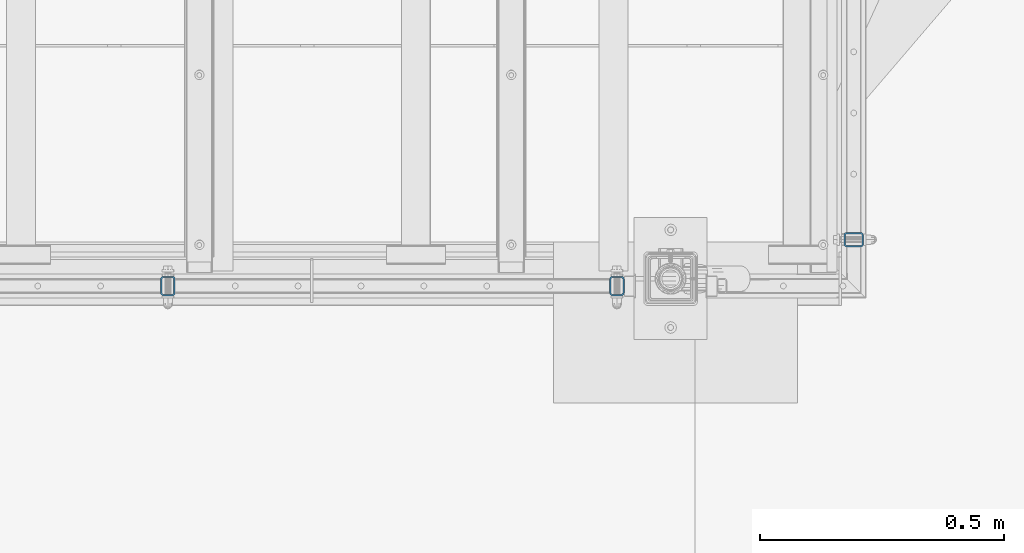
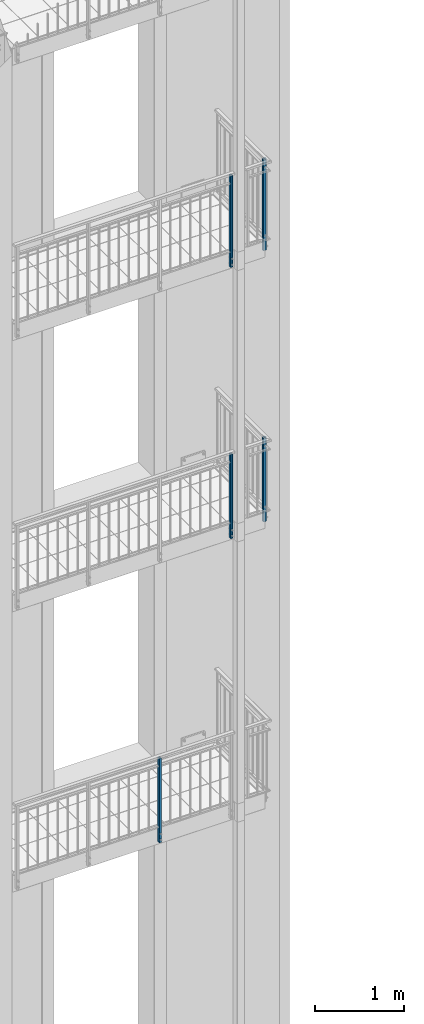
# One storey, part 6 of 162: 5 columns, 36 openings.
"""IFC2X3 building model written with IfcOpenShell, lengths in millimetres."""

from ifc_helpers import new_model, entity, si_unit, converted_unit, frame, frame_2d, origin, origin_with_axes, origin_2d, origin_2d_with_axis, place, context, project, spatial, hollow_rectangle, circle, extrude, material, element, save


model = new_model("IFC2X3")

# Units and contexts
model_context = context("Model", 3, precision=1e-09, world=origin_with_axes())
ifc_project = project(units=[si_unit("LENGTHUNIT", "METRE", prefix="MILLI"), si_unit("AREAUNIT", "SQUARE_METRE"), si_unit("VOLUMEUNIT", "CUBIC_METRE"), converted_unit("PLANEANGLEUNIT", "DEGREE", entity("IfcPlaneAngleMeasure", 0.01745329), si_unit("PLANEANGLEUNIT", "RADIAN"), dimensions=[0, 0, 0, 0, 0, 0, 0])], contexts=[model_context])

# Site, building, storey
site_placement = place(None, origin_with_axes())
site = spatial("IfcSite", under=ifc_project, at=site_placement, Name="Hermannstra?e 1a, 60318 Frankfurt", CompositionType="ELEMENT")
building_placement = place(site_placement, origin_with_axes())
building = spatial("IfcBuilding", under=site, at=building_placement, Name="Struktur 1", CompositionType="ELEMENT")
storey_placement = place(building_placement, origin_with_axes())
storey = spatial("IfcBuildingStorey", under=building, at=storey_placement, Name="Default Storey", CompositionType="ELEMENT", Elevation=0.0)

# Column, openings
ifc_material = material(Name="S235JR")
column_1_placement = place(None, frame((5363.30936482, 1515.609373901, 7600.0), z_axis=(0.0, 0.0, -1.0), x_axis=(1.0, 0.0, 0.0)))
column_1 = element("IfcColumn", 1, at=column_1_placement, inside=storey, material=ifc_material, Name="-", ObjectType="-", context=model_context, shape_type="SweptSolid", body=[
    extrude(hollow_rectangle(XDim=30.0, YDim=40.0, WallThickness=3.0, InnerFilletRadius=3.0, OuterFilletRadius=6.0, at=origin_2d()), origin(), (0.0, 0.0, -1.0), 1150.0),
])
opening_1_placement = place(column_1_placement, frame((-11.5, 5.001, -210.0), z_axis=(1.0, 0.0, 0.0), x_axis=(0.0, 1.0, 0.0)))
element("IfcOpeningElement", 2, at=opening_1_placement, cuts=column_1, ObjectType="Opening", context=model_context, shape_type="SweptSolid", body=[
    extrude(circle(Radius=5.001, at=frame_2d((-5.001, 0.0), x_axis=(1.0, 0.0))), origin(), (0.0, 0.0, -1.0), 4.0),
])
opening_2_placement = place(column_1_placement, frame((-11.5, 5.001, -1040.0), z_axis=(1.0, 0.0, 0.0), x_axis=(0.0, 1.0, 0.0)))
element("IfcOpeningElement", 3, at=opening_2_placement, cuts=column_1, ObjectType="Opening", context=model_context, shape_type="SweptSolid", body=[
    extrude(circle(Radius=5.001, at=frame_2d((-5.001, 0.0), x_axis=(1.0, 0.0))), origin(), (0.0, 0.0, -1.0), 4.0),
])
opening_3_placement = place(column_1_placement, frame((-8.001, -16.5, -120.0), z_axis=(0.0, 1.0, 0.0), x_axis=(-1.0, 0.0, 0.0)))
element("IfcOpeningElement", 4, at=opening_3_placement, cuts=column_1, ObjectType="Opening", context=model_context, shape_type="SweptSolid", body=[
    extrude(circle(Radius=8.001, at=frame_2d((-8.001, 0.0), x_axis=(1.0, 0.0))), origin(), (0.0, 0.0, -1.0), 4.0),
])
opening_4_placement = place(column_1_placement, frame((-8.001, -16.5, -40.0), z_axis=(0.0, 1.0, 0.0), x_axis=(-1.0, 0.0, 0.0)))
element("IfcOpeningElement", 5, at=opening_4_placement, cuts=column_1, ObjectType="Opening", context=model_context, shape_type="SweptSolid", body=[
    extrude(circle(Radius=8.001, at=frame_2d((-8.001, 0.0), x_axis=(1.0, 0.0))), origin(), (0.0, 0.0, -1.0), 4.0),
])
opening_5_placement = place(column_1_placement, frame((-8.001, 20.5, -120.0), z_axis=(0.0, 1.0, 0.0), x_axis=(-1.0, 0.0, 0.0)))
element("IfcOpeningElement", 6, at=opening_5_placement, cuts=column_1, ObjectType="Opening", context=model_context, shape_type="SweptSolid", body=[
    extrude(circle(Radius=8.001, at=frame_2d((-8.001, 0.0), x_axis=(1.0, 0.0))), origin(), (0.0, 0.0, -1.0), 4.0),
])
opening_6_placement = place(column_1_placement, frame((-8.001, 20.5, -40.0), z_axis=(0.0, 1.0, 0.0), x_axis=(-1.0, 0.0, 0.0)))
element("IfcOpeningElement", 7, at=opening_6_placement, cuts=column_1, ObjectType="Opening", context=model_context, shape_type="SweptSolid", body=[
    extrude(circle(Radius=8.001, at=frame_2d((-8.001, 0.0), x_axis=(1.0, 0.0))), origin(), (0.0, 0.0, -1.0), 4.0),
])

column_2_placement = place(None, frame((5848.30936482, 1610.609373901, 7600.0), z_axis=(0.0, 0.0, -1.0), x_axis=(0.0, -1.0, 0.0)))
column_2 = element("IfcColumn", 8, at=column_2_placement, inside=storey, material=ifc_material, Name="-", ObjectType="-", context=model_context, shape_type="SweptSolid", body=[
    extrude(hollow_rectangle(XDim=30.0, YDim=40.0, WallThickness=3.0, InnerFilletRadius=3.0, OuterFilletRadius=6.0, at=origin_2d()), origin(), (0.0, 0.0, -1.0), 1150.0),
])
opening_7_placement = place(column_2_placement, frame((-11.5, 0.0, -1040.0), z_axis=(-1.0, 0.0, 0.0), x_axis=(0.0, 1.0, 0.0)))
element("IfcOpeningElement", 9, at=opening_7_placement, cuts=column_2, ObjectType="Opening", context=model_context, shape_type="SweptSolid", body=[
    extrude(circle(Radius=5.001, at=origin_2d_with_axis()), origin(), (0.0, 0.0, 1.0), 4.0),
])
opening_8_placement = place(column_2_placement, frame((-11.5, 0.0, -240.0), z_axis=(-1.0, 0.0, 0.0), x_axis=(0.0, 1.0, 0.0)))
element("IfcOpeningElement", 10, at=opening_8_placement, cuts=column_2, ObjectType="Opening", context=model_context, shape_type="SweptSolid", body=[
    extrude(circle(Radius=5.001, at=frame_2d((0.0, -30.0), x_axis=(1.0, 0.0))), origin(), (0.0, 0.0, 1.0), 4.0),
])
opening_9_placement = place(column_2_placement, frame((11.5, -5.001, -210.0), z_axis=(-1.0, 0.0, 0.0), x_axis=(0.0, -1.0, 0.0)))
element("IfcOpeningElement", 11, at=opening_9_placement, cuts=column_2, ObjectType="Opening", context=model_context, shape_type="SweptSolid", body=[
    extrude(circle(Radius=5.001, at=frame_2d((-5.001, 0.0), x_axis=(1.0, 0.0))), origin(), (0.0, 0.0, -1.0), 4.0),
])
opening_10_placement = place(column_2_placement, frame((11.5, -5.001, -1040.0), z_axis=(-1.0, 0.0, 0.0), x_axis=(0.0, -1.0, 0.0)))
element("IfcOpeningElement", 12, at=opening_10_placement, cuts=column_2, ObjectType="Opening", context=model_context, shape_type="SweptSolid", body=[
    extrude(circle(Radius=5.001, at=frame_2d((-5.001, 0.0), x_axis=(1.0, 0.0))), origin(), (0.0, 0.0, -1.0), 4.0),
])
opening_11_placement = place(column_2_placement, frame((8.001, 16.5, -120.0), z_axis=(0.0, -1.0, 0.0), x_axis=(1.0, 0.0, 0.0)))
element("IfcOpeningElement", 13, at=opening_11_placement, cuts=column_2, ObjectType="Opening", context=model_context, shape_type="SweptSolid", body=[
    extrude(circle(Radius=8.001, at=frame_2d((-8.001, 0.0), x_axis=(1.0, 0.0))), origin(), (0.0, 0.0, -1.0), 4.0),
])
opening_12_placement = place(column_2_placement, frame((8.001, 16.5, -40.0), z_axis=(0.0, -1.0, 0.0), x_axis=(1.0, 0.0, 0.0)))
element("IfcOpeningElement", 14, at=opening_12_placement, cuts=column_2, ObjectType="Opening", context=model_context, shape_type="SweptSolid", body=[
    extrude(circle(Radius=8.001, at=frame_2d((-8.001, 0.0), x_axis=(1.0, 0.0))), origin(), (0.0, 0.0, -1.0), 4.0),
])
opening_13_placement = place(column_2_placement, frame((8.001, -20.5, -120.0), z_axis=(0.0, -1.0, 0.0), x_axis=(1.0, 0.0, 0.0)))
element("IfcOpeningElement", 15, at=opening_13_placement, cuts=column_2, ObjectType="Opening", context=model_context, shape_type="SweptSolid", body=[
    extrude(circle(Radius=8.001, at=frame_2d((-8.001, 0.0), x_axis=(1.0, 0.0))), origin(), (0.0, 0.0, -1.0), 4.0),
])
opening_14_placement = place(column_2_placement, frame((8.001, -20.5, -40.0), z_axis=(0.0, -1.0, 0.0), x_axis=(1.0, 0.0, 0.0)))
element("IfcOpeningElement", 16, at=opening_14_placement, cuts=column_2, ObjectType="Opening", context=model_context, shape_type="SweptSolid", body=[
    extrude(circle(Radius=8.001, at=frame_2d((-8.001, 0.0), x_axis=(1.0, 0.0))), origin(), (0.0, 0.0, -1.0), 4.0),
])

column_3_placement = place(None, frame((5848.30936482, 1610.609373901, 11299.999), z_axis=(0.0, 0.0, -1.0), x_axis=(0.0, -1.0, 0.0)))
column_3 = element("IfcColumn", 17, at=column_3_placement, inside=storey, material=ifc_material, Name="-", ObjectType="-", context=model_context, shape_type="SweptSolid", body=[
    extrude(hollow_rectangle(XDim=30.0, YDim=40.0, WallThickness=3.0, InnerFilletRadius=3.0, OuterFilletRadius=6.0, at=origin_2d()), origin(), (0.0, 0.0, -1.0), 1250.0),
])
opening_15_placement = place(column_3_placement, frame((-11.5, 0.0, -1040.0), z_axis=(-1.0, 0.0, 0.0), x_axis=(0.0, 1.0, 0.0)))
element("IfcOpeningElement", 18, at=opening_15_placement, cuts=column_3, ObjectType="Opening", context=model_context, shape_type="SweptSolid", body=[
    extrude(circle(Radius=5.001, at=frame_2d((0.0, 100.0), x_axis=(1.0, 0.0))), origin(), (0.0, 0.0, 1.0), 4.0),
])
opening_16_placement = place(column_3_placement, frame((-11.5, 0.0, -240.0), z_axis=(-1.0, 0.0, 0.0), x_axis=(0.0, 1.0, 0.0)))
element("IfcOpeningElement", 19, at=opening_16_placement, cuts=column_3, ObjectType="Opening", context=model_context, shape_type="SweptSolid", body=[
    extrude(circle(Radius=5.001, at=frame_2d((0.0, -30.0), x_axis=(1.0, 0.0))), origin(), (0.0, 0.0, 1.0), 4.0),
])
opening_17_placement = place(column_3_placement, frame((11.5, -5.001, -210.0), z_axis=(-1.0, 0.0, 0.0), x_axis=(0.0, -1.0, 0.0)))
element("IfcOpeningElement", 20, at=opening_17_placement, cuts=column_3, ObjectType="Opening", context=model_context, shape_type="SweptSolid", body=[
    extrude(circle(Radius=5.001, at=frame_2d((-5.001, 0.0), x_axis=(1.0, 0.0))), origin(), (0.0, 0.0, -1.0), 4.0),
])
opening_18_placement = place(column_3_placement, frame((11.5, -5.001, -1140.0), z_axis=(-1.0, 0.0, 0.0), x_axis=(0.0, -1.0, 0.0)))
element("IfcOpeningElement", 21, at=opening_18_placement, cuts=column_3, ObjectType="Opening", context=model_context, shape_type="SweptSolid", body=[
    extrude(circle(Radius=5.001, at=frame_2d((-5.001, 0.0), x_axis=(1.0, 0.0))), origin(), (0.0, 0.0, -1.0), 4.0),
])
opening_19_placement = place(column_3_placement, frame((8.001, 16.5, -120.0), z_axis=(0.0, -1.0, 0.0), x_axis=(1.0, 0.0, 0.0)))
element("IfcOpeningElement", 22, at=opening_19_placement, cuts=column_3, ObjectType="Opening", context=model_context, shape_type="SweptSolid", body=[
    extrude(circle(Radius=8.001, at=frame_2d((-8.001, 0.0), x_axis=(1.0, 0.0))), origin(), (0.0, 0.0, -1.0), 4.0),
])
opening_20_placement = place(column_3_placement, frame((8.001, 16.5, -40.0), z_axis=(0.0, -1.0, 0.0), x_axis=(1.0, 0.0, 0.0)))
element("IfcOpeningElement", 23, at=opening_20_placement, cuts=column_3, ObjectType="Opening", context=model_context, shape_type="SweptSolid", body=[
    extrude(circle(Radius=8.001, at=frame_2d((-8.001, 0.0), x_axis=(1.0, 0.0))), origin(), (0.0, 0.0, -1.0), 4.0),
])
opening_21_placement = place(column_3_placement, frame((8.001, -20.5, -120.0), z_axis=(0.0, -1.0, 0.0), x_axis=(1.0, 0.0, 0.0)))
element("IfcOpeningElement", 24, at=opening_21_placement, cuts=column_3, ObjectType="Opening", context=model_context, shape_type="SweptSolid", body=[
    extrude(circle(Radius=8.001, at=frame_2d((-8.001, 0.0), x_axis=(1.0, 0.0))), origin(), (0.0, 0.0, -1.0), 4.0),
])
opening_22_placement = place(column_3_placement, frame((8.001, -20.5, -40.0), z_axis=(0.0, -1.0, 0.0), x_axis=(1.0, 0.0, 0.0)))
element("IfcOpeningElement", 25, at=opening_22_placement, cuts=column_3, ObjectType="Opening", context=model_context, shape_type="SweptSolid", body=[
    extrude(circle(Radius=8.001, at=frame_2d((-8.001, 0.0), x_axis=(1.0, 0.0))), origin(), (0.0, 0.0, -1.0), 4.0),
])

column_4_placement = place(None, frame((5363.30936482, 1515.609373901, 11299.999), z_axis=(0.0, 0.0, -1.0), x_axis=(1.0, 0.0, 0.0)))
column_4 = element("IfcColumn", 26, at=column_4_placement, inside=storey, material=ifc_material, Name="-", ObjectType="-", context=model_context, shape_type="SweptSolid", body=[
    extrude(hollow_rectangle(XDim=30.0, YDim=40.0, WallThickness=3.0, InnerFilletRadius=3.0, OuterFilletRadius=6.0, at=origin_2d()), origin(), (0.0, 0.0, -1.0), 1250.0),
])
opening_23_placement = place(column_4_placement, frame((-11.5, 5.001, -210.0), z_axis=(1.0, 0.0, 0.0), x_axis=(0.0, 1.0, 0.0)))
element("IfcOpeningElement", 27, at=opening_23_placement, cuts=column_4, ObjectType="Opening", context=model_context, shape_type="SweptSolid", body=[
    extrude(circle(Radius=5.001, at=frame_2d((-5.001, 0.0), x_axis=(1.0, 0.0))), origin(), (0.0, 0.0, -1.0), 4.0),
])
opening_24_placement = place(column_4_placement, frame((-11.5, 5.001, -1140.0), z_axis=(1.0, 0.0, 0.0), x_axis=(0.0, 1.0, 0.0)))
element("IfcOpeningElement", 28, at=opening_24_placement, cuts=column_4, ObjectType="Opening", context=model_context, shape_type="SweptSolid", body=[
    extrude(circle(Radius=5.001, at=frame_2d((-5.001, 0.0), x_axis=(1.0, 0.0))), origin(), (0.0, 0.0, -1.0), 4.0),
])
opening_25_placement = place(column_4_placement, frame((-8.001, -16.5, -120.0), z_axis=(0.0, 1.0, 0.0), x_axis=(-1.0, 0.0, 0.0)))
element("IfcOpeningElement", 29, at=opening_25_placement, cuts=column_4, ObjectType="Opening", context=model_context, shape_type="SweptSolid", body=[
    extrude(circle(Radius=8.001, at=frame_2d((-8.001, 0.0), x_axis=(1.0, 0.0))), origin(), (0.0, 0.0, -1.0), 4.0),
])
opening_26_placement = place(column_4_placement, frame((-8.001, -16.5, -40.0), z_axis=(0.0, 1.0, 0.0), x_axis=(-1.0, 0.0, 0.0)))
element("IfcOpeningElement", 30, at=opening_26_placement, cuts=column_4, ObjectType="Opening", context=model_context, shape_type="SweptSolid", body=[
    extrude(circle(Radius=8.001, at=frame_2d((-8.001, 0.0), x_axis=(1.0, 0.0))), origin(), (0.0, 0.0, -1.0), 4.0),
])
opening_27_placement = place(column_4_placement, frame((-8.001, 20.5, -120.0), z_axis=(0.0, 1.0, 0.0), x_axis=(-1.0, 0.0, 0.0)))
element("IfcOpeningElement", 31, at=opening_27_placement, cuts=column_4, ObjectType="Opening", context=model_context, shape_type="SweptSolid", body=[
    extrude(circle(Radius=8.001, at=frame_2d((-8.001, 0.0), x_axis=(1.0, 0.0))), origin(), (0.0, 0.0, -1.0), 4.0),
])
opening_28_placement = place(column_4_placement, frame((-8.001, 20.5, -40.0), z_axis=(0.0, 1.0, 0.0), x_axis=(-1.0, 0.0, 0.0)))
element("IfcOpeningElement", 32, at=opening_28_placement, cuts=column_4, ObjectType="Opening", context=model_context, shape_type="SweptSolid", body=[
    extrude(circle(Radius=8.001, at=frame_2d((-8.001, 0.0), x_axis=(1.0, 0.0))), origin(), (0.0, 0.0, -1.0), 4.0),
])

column_5_placement = place(None, frame((4443.30936482, 1515.609373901, 3775.0), z_axis=(0.0, 0.0, -1.0), x_axis=(1.0, 0.0, 0.0)))
column_5 = element("IfcColumn", 33, at=column_5_placement, inside=storey, material=ifc_material, Name="-", ObjectType="-", context=model_context, shape_type="SweptSolid", body=[
    extrude(hollow_rectangle(XDim=30.0, YDim=40.0, WallThickness=3.0, InnerFilletRadius=3.0, OuterFilletRadius=6.0, at=origin_2d()), origin(), (0.0, 0.0, -1.0), 1150.0),
])
opening_29_placement = place(column_5_placement, frame((-11.5, 5.001, -210.0), z_axis=(1.0, 0.0, 0.0), x_axis=(0.0, 1.0, 0.0)))
element("IfcOpeningElement", 34, at=opening_29_placement, cuts=column_5, ObjectType="Opening", context=model_context, shape_type="SweptSolid", body=[
    extrude(circle(Radius=5.001, at=frame_2d((-5.001, 0.0), x_axis=(1.0, 0.0))), origin(), (0.0, 0.0, -1.0), 4.0),
])
opening_30_placement = place(column_5_placement, frame((-11.5, 5.001, -1040.0), z_axis=(1.0, 0.0, 0.0), x_axis=(0.0, 1.0, 0.0)))
element("IfcOpeningElement", 35, at=opening_30_placement, cuts=column_5, ObjectType="Opening", context=model_context, shape_type="SweptSolid", body=[
    extrude(circle(Radius=5.001, at=frame_2d((-5.001, 0.0), x_axis=(1.0, 0.0))), origin(), (0.0, 0.0, -1.0), 4.0),
])
opening_31_placement = place(column_5_placement, frame((11.5, 0.0, -1040.0), z_axis=(1.0, 0.0, 0.0), x_axis=(0.0, -1.0, 0.0)))
element("IfcOpeningElement", 36, at=opening_31_placement, cuts=column_5, ObjectType="Opening", context=model_context, shape_type="SweptSolid", body=[
    extrude(circle(Radius=5.001, at=origin_2d_with_axis()), origin(), (0.0, 0.0, 1.0), 4.0),
])
opening_32_placement = place(column_5_placement, frame((11.5, 0.0, -240.0), z_axis=(1.0, 0.0, 0.0), x_axis=(0.0, -1.0, 0.0)))
element("IfcOpeningElement", 37, at=opening_32_placement, cuts=column_5, ObjectType="Opening", context=model_context, shape_type="SweptSolid", body=[
    extrude(circle(Radius=5.001, at=frame_2d((0.0, -30.0), x_axis=(1.0, 0.0))), origin(), (0.0, 0.0, 1.0), 4.0),
])
opening_33_placement = place(column_5_placement, frame((-8.001, -16.5, -120.0), z_axis=(0.0, 1.0, 0.0), x_axis=(-1.0, 0.0, 0.0)))
element("IfcOpeningElement", 38, at=opening_33_placement, cuts=column_5, ObjectType="Opening", context=model_context, shape_type="SweptSolid", body=[
    extrude(circle(Radius=8.001, at=frame_2d((-8.001, 0.0), x_axis=(1.0, 0.0))), origin(), (0.0, 0.0, -1.0), 4.0),
])
opening_34_placement = place(column_5_placement, frame((-8.001, -16.5, -40.0), z_axis=(0.0, 1.0, 0.0), x_axis=(-1.0, 0.0, 0.0)))
element("IfcOpeningElement", 39, at=opening_34_placement, cuts=column_5, ObjectType="Opening", context=model_context, shape_type="SweptSolid", body=[
    extrude(circle(Radius=8.001, at=frame_2d((-8.001, 0.0), x_axis=(1.0, 0.0))), origin(), (0.0, 0.0, -1.0), 4.0),
])
opening_35_placement = place(column_5_placement, frame((-8.001, 20.5, -120.0), z_axis=(0.0, 1.0, 0.0), x_axis=(-1.0, 0.0, 0.0)))
element("IfcOpeningElement", 40, at=opening_35_placement, cuts=column_5, ObjectType="Opening", context=model_context, shape_type="SweptSolid", body=[
    extrude(circle(Radius=8.001, at=frame_2d((-8.001, 0.0), x_axis=(1.0, 0.0))), origin(), (0.0, 0.0, -1.0), 4.0),
])
opening_36_placement = place(column_5_placement, frame((-8.001, 20.5, -40.0), z_axis=(0.0, 1.0, 0.0), x_axis=(-1.0, 0.0, 0.0)))
element("IfcOpeningElement", 41, at=opening_36_placement, cuts=column_5, ObjectType="Opening", context=model_context, shape_type="SweptSolid", body=[
    extrude(circle(Radius=8.001, at=frame_2d((-8.001, 0.0), x_axis=(1.0, 0.0))), origin(), (0.0, 0.0, -1.0), 4.0),
])

save(model, "model.ifc")
